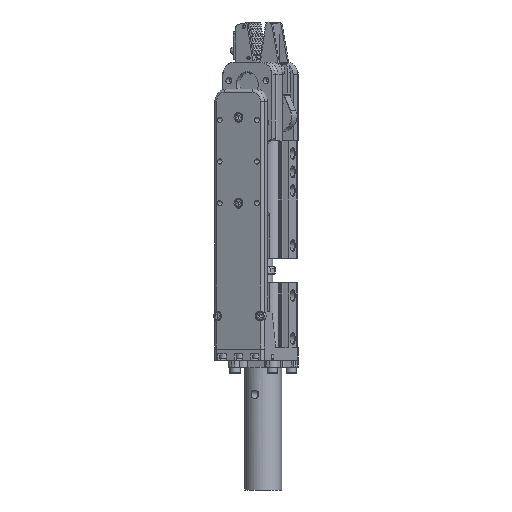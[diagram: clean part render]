
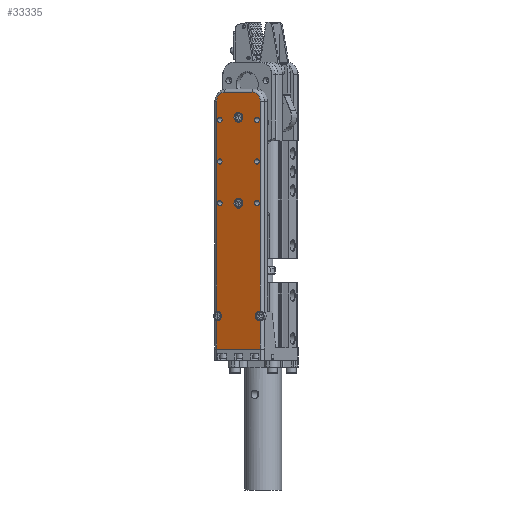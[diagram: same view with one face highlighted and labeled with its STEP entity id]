
A CAD part, left-side view. The second image highlights one B-rep face of the part: STEP entity #33335.
In plain terms, the highlighted planar face has unit normal (-0.89, 0.456, 0).
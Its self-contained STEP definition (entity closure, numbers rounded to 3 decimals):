
#2486=LINE('',#79743,#6382);
#2817=LINE('',#80990,#6713);
#2818=LINE('',#81014,#6714);
#2822=LINE('',#81024,#6718);
#2823=LINE('',#81027,#6719);
#2824=LINE('',#81031,#6720);
#6382=VECTOR('',#68208,1.);
#6713=VECTOR('',#69607,1.);
#6714=VECTOR('',#69612,1.);
#6718=VECTOR('',#69622,1.);
#6719=VECTOR('',#69625,1.);
#6720=VECTOR('',#69628,1.);
#28668=PLANE('',#61096);
#33335=ADVANCED_FACE('',(#35546,#35547,#35548,#35549,#35550,#35551,#35552,
#35553,#35554),#28668,.T.);
#35546=FACE_BOUND('',#37949,.T.);
#35547=FACE_BOUND('',#37950,.T.);
#35548=FACE_BOUND('',#37951,.T.);
#35549=FACE_BOUND('',#37952,.T.);
#35550=FACE_BOUND('',#37953,.T.);
#35551=FACE_BOUND('',#37954,.T.);
#35552=FACE_BOUND('',#37955,.T.);
#35553=FACE_BOUND('',#37956,.T.);
#35554=FACE_BOUND('',#37957,.T.);
#37949=EDGE_LOOP('',(#45355,#45356,#45357,#45358,#45359,#45360,#45361,#45362,
#45363,#45364));
#37950=EDGE_LOOP('',(#45365));
#37951=EDGE_LOOP('',(#45366));
#37952=EDGE_LOOP('',(#45367));
#37953=EDGE_LOOP('',(#45368));
#37954=EDGE_LOOP('',(#45369));
#37955=EDGE_LOOP('',(#45370));
#37956=EDGE_LOOP('',(#45371));
#37957=EDGE_LOOP('',(#45372));
#45355=ORIENTED_EDGE('',*,*,#55601,.F.);
#45356=ORIENTED_EDGE('',*,*,#55602,.T.);
#45357=ORIENTED_EDGE('',*,*,#55048,.T.);
#45358=ORIENTED_EDGE('',*,*,#55597,.T.);
#45359=ORIENTED_EDGE('',*,*,#55603,.F.);
#45360=ORIENTED_EDGE('',*,*,#55604,.T.);
#45361=ORIENTED_EDGE('',*,*,#55605,.T.);
#45362=ORIENTED_EDGE('',*,*,#55606,.T.);
#45363=ORIENTED_EDGE('',*,*,#55607,.T.);
#45364=ORIENTED_EDGE('',*,*,#55594,.T.);
#45365=ORIENTED_EDGE('',*,*,#55608,.F.);
#45366=ORIENTED_EDGE('',*,*,#55609,.F.);
#45367=ORIENTED_EDGE('',*,*,#55610,.F.);
#45368=ORIENTED_EDGE('',*,*,#55611,.F.);
#45369=ORIENTED_EDGE('',*,*,#55612,.F.);
#45370=ORIENTED_EDGE('',*,*,#55613,.F.);
#45371=ORIENTED_EDGE('',*,*,#55614,.F.);
#45372=ORIENTED_EDGE('',*,*,#55615,.F.);
#50971=VERTEX_POINT('',#79742);
#50972=VERTEX_POINT('',#79744);
#51334=VERTEX_POINT('',#80989);
#51335=VERTEX_POINT('',#80991);
#51336=VERTEX_POINT('',#81013);
#51339=VERTEX_POINT('',#81023);
#51340=VERTEX_POINT('',#81026);
#51341=VERTEX_POINT('',#81028);
#51342=VERTEX_POINT('',#81030);
#51343=VERTEX_POINT('',#81032);
#51344=VERTEX_POINT('',#81035);
#51345=VERTEX_POINT('',#81037);
#51346=VERTEX_POINT('',#81039);
#51347=VERTEX_POINT('',#81041);
#51348=VERTEX_POINT('',#81043);
#51349=VERTEX_POINT('',#81045);
#51350=VERTEX_POINT('',#81047);
#51351=VERTEX_POINT('',#81049);
#55048=EDGE_CURVE('',#50972,#50971,#2486,.T.);
#55594=EDGE_CURVE('',#51335,#51334,#2817,.T.);
#55597=EDGE_CURVE('',#50971,#51336,#2818,.T.);
#55601=EDGE_CURVE('',#51339,#51334,#58354,.T.);
#55602=EDGE_CURVE('',#51339,#50972,#2822,.T.);
#55603=EDGE_CURVE('',#51340,#51336,#58355,.T.);
#55604=EDGE_CURVE('',#51340,#51341,#2823,.T.);
#55605=EDGE_CURVE('',#51341,#51342,#58356,.T.);
#55606=EDGE_CURVE('',#51342,#51343,#2824,.T.);
#55607=EDGE_CURVE('',#51343,#51335,#58357,.T.);
#55608=EDGE_CURVE('',#51344,#51344,#58358,.T.);
#55609=EDGE_CURVE('',#51345,#51345,#58359,.T.);
#55610=EDGE_CURVE('',#51346,#51346,#58360,.T.);
#55611=EDGE_CURVE('',#51347,#51347,#58361,.T.);
#55612=EDGE_CURVE('',#51348,#51348,#58362,.T.);
#55613=EDGE_CURVE('',#51349,#51349,#58363,.T.);
#55614=EDGE_CURVE('',#51350,#51350,#58364,.T.);
#55615=EDGE_CURVE('',#51351,#51351,#58365,.T.);
#58354=CIRCLE('',#61084,4.);
#58355=CIRCLE('',#61085,4.);
#58356=CIRCLE('',#61086,7.5);
#58357=CIRCLE('',#61087,7.5);
#58358=CIRCLE('',#61088,2.1);
#58359=CIRCLE('',#61089,2.1);
#58360=CIRCLE('',#61090,2.1);
#58361=CIRCLE('',#61091,2.1);
#58362=CIRCLE('',#61092,2.1);
#58363=CIRCLE('',#61093,2.1);
#58364=CIRCLE('',#61094,4.);
#58365=CIRCLE('',#61095,4.);
#61084=AXIS2_PLACEMENT_3D('',#81022,#69620,#69621);
#61085=AXIS2_PLACEMENT_3D('',#81025,#69623,#69624);
#61086=AXIS2_PLACEMENT_3D('',#81029,#69626,#69627);
#61087=AXIS2_PLACEMENT_3D('',#81033,#69629,#69630);
#61088=AXIS2_PLACEMENT_3D('',#81034,#69631,#69632);
#61089=AXIS2_PLACEMENT_3D('',#81036,#69633,#69634);
#61090=AXIS2_PLACEMENT_3D('',#81038,#69635,#69636);
#61091=AXIS2_PLACEMENT_3D('',#81040,#69637,#69638);
#61092=AXIS2_PLACEMENT_3D('',#81042,#69639,#69640);
#61093=AXIS2_PLACEMENT_3D('',#81044,#69641,#69642);
#61094=AXIS2_PLACEMENT_3D('',#81046,#69643,#69644);
#61095=AXIS2_PLACEMENT_3D('',#81048,#69645,#69646);
#61096=AXIS2_PLACEMENT_3D('',#81050,#69647,#69648);
#68208=DIRECTION('',(-0.456,-0.89,0.));
#69607=DIRECTION('',(0.,0.,-1.));
#69612=DIRECTION('',(0.,0.,1.));
#69620=DIRECTION('',(-0.89,0.456,0.));
#69621=DIRECTION('',(-0.456,-0.89,0.));
#69622=DIRECTION('',(0.,0.,-1.));
#69623=DIRECTION('',(-0.89,0.456,0.));
#69624=DIRECTION('',(-0.456,-0.89,0.));
#69625=DIRECTION('',(0.,0.,1.));
#69626=DIRECTION('',(-0.89,0.456,0.));
#69627=DIRECTION('',(-0.456,-0.89,0.));
#69628=DIRECTION('',(0.456,0.89,0.));
#69629=DIRECTION('',(-0.89,0.456,0.));
#69630=DIRECTION('',(-0.456,-0.89,0.));
#69631=DIRECTION('',(-0.89,0.456,0.));
#69632=DIRECTION('',(-0.456,-0.89,0.));
#69633=DIRECTION('',(-0.89,0.456,0.));
#69634=DIRECTION('',(-0.456,-0.89,0.));
#69635=DIRECTION('',(-0.89,0.456,0.));
#69636=DIRECTION('',(-0.456,-0.89,0.));
#69637=DIRECTION('',(-0.89,0.456,0.));
#69638=DIRECTION('',(-0.456,-0.89,0.));
#69639=DIRECTION('',(-0.89,0.456,0.));
#69640=DIRECTION('',(-0.456,-0.89,0.));
#69641=DIRECTION('',(-0.89,0.456,0.));
#69642=DIRECTION('',(-0.456,-0.89,0.));
#69643=DIRECTION('',(-0.89,0.456,0.));
#69644=DIRECTION('',(-0.456,-0.89,0.));
#69645=DIRECTION('',(-0.89,0.456,0.));
#69646=DIRECTION('',(-0.456,-0.89,0.));
#69647=DIRECTION('',(-0.89,0.456,0.));
#69648=DIRECTION('',(0.456,0.89,0.));
#79742=CARTESIAN_POINT('',(-48.68,2.46,115.));
#79743=CARTESIAN_POINT('',(-49.82,0.235,115.));
#79744=CARTESIAN_POINT('',(-30.447,38.063,115.));
#80989=CARTESIAN_POINT('',(-30.447,38.063,145.969));
#80990=CARTESIAN_POINT('',(-30.447,38.063,115.));
#80991=CARTESIAN_POINT('',(-30.447,38.063,317.));
#81013=CARTESIAN_POINT('',(-48.68,2.46,138.031));
#81014=CARTESIAN_POINT('',(-48.68,2.46,317.));
#81022=CARTESIAN_POINT('',(-30.675,37.618,142.));
#81023=CARTESIAN_POINT('',(-30.447,38.063,138.031));
#81024=CARTESIAN_POINT('',(-30.447,38.063,115.));
#81025=CARTESIAN_POINT('',(-48.452,2.905,142.));
#81026=CARTESIAN_POINT('',(-48.68,2.46,145.969));
#81027=CARTESIAN_POINT('',(-48.68,2.46,317.));
#81028=CARTESIAN_POINT('',(-48.68,2.46,317.));
#81029=CARTESIAN_POINT('',(-45.261,9.135,317.));
#81030=CARTESIAN_POINT('',(-45.261,9.135,324.5));
#81031=CARTESIAN_POINT('',(-33.866,31.387,324.5));
#81032=CARTESIAN_POINT('',(-33.866,31.387,324.5));
#81033=CARTESIAN_POINT('',(-33.866,31.387,317.));
#81034=CARTESIAN_POINT('',(-31.815,35.392,302.));
#81035=CARTESIAN_POINT('',(-32.772,33.523,302.));
#81036=CARTESIAN_POINT('',(-47.313,5.13,302.));
#81037=CARTESIAN_POINT('',(-48.27,3.261,302.));
#81038=CARTESIAN_POINT('',(-47.313,5.13,268.));
#81039=CARTESIAN_POINT('',(-48.27,3.261,268.));
#81040=CARTESIAN_POINT('',(-31.815,35.392,268.));
#81041=CARTESIAN_POINT('',(-32.772,33.523,268.));
#81042=CARTESIAN_POINT('',(-31.815,35.392,234.));
#81043=CARTESIAN_POINT('',(-32.772,33.523,234.));
#81044=CARTESIAN_POINT('',(-47.313,5.13,234.));
#81045=CARTESIAN_POINT('',(-48.27,3.261,234.));
#81046=CARTESIAN_POINT('',(-39.564,20.261,234.));
#81047=CARTESIAN_POINT('',(-41.387,16.701,234.));
#81048=CARTESIAN_POINT('',(-39.564,20.261,304.));
#81049=CARTESIAN_POINT('',(-41.387,16.701,304.));
#81050=CARTESIAN_POINT('',(-39.564,20.261,254.5));
